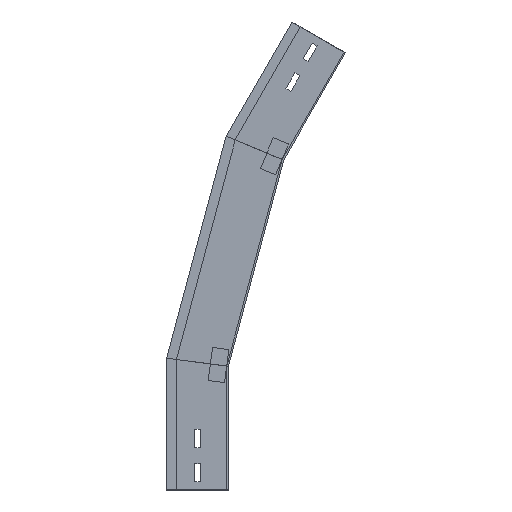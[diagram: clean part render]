
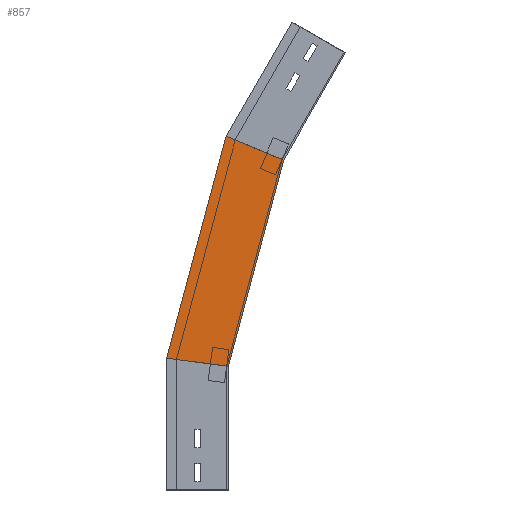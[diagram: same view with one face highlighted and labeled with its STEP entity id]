
A CAD part, left-side view. The second image highlights one B-rep face of the part: STEP entity #857.
In plain terms, the highlighted planar face has unit normal (-1, 0, 0) as drawn and (1, 0, 0) by its records, which use the part's own axes.
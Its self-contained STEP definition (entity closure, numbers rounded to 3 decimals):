
#148 = VERTEX_POINT ( 'NONE', #748 ) ;
#182 = VECTOR ( 'NONE', #763, 1000. ) ;
#237 = CARTESIAN_POINT ( 'NONE',  ( 0., 2.837, 139.412 ) ) ;
#258 = CARTESIAN_POINT ( 'NONE',  ( 0., -19.411, 147.444 ) ) ;
#272 = DIRECTION ( 'NONE',  ( 0., -0.991, -0.131 ) ) ;
#309 = CARTESIAN_POINT ( 'NONE',  ( 0., 75.281, 158.824 ) ) ;
#312 = EDGE_CURVE ( 'NONE', #744, #148, #1322, .T. ) ;
#373 = ORIENTED_EDGE ( 'NONE', *, *, #554, .F. ) ;
#391 = AXIS2_PLACEMENT_3D ( 'NONE', #237, #1129, #923 ) ;
#397 = VERTEX_POINT ( 'NONE', #568 ) ;
#400 = EDGE_CURVE ( 'NONE', #397, #521, #1191, .T. ) ;
#458 = VECTOR ( 'NONE', #1163, 1000. ) ;
#521 = VERTEX_POINT ( 'NONE', #1058 ) ;
#554 = EDGE_CURVE ( 'NONE', #744, #397, #855, .T. ) ;
#568 = CARTESIAN_POINT ( 'NONE',  ( 0., 0., 150. ) ) ;
#581 = LINE ( 'NONE', #1356, #808 ) ;
#674 = FACE_OUTER_BOUND ( 'NONE', #752, .T. ) ;
#698 = DIRECTION ( 'NONE',  ( 0., -0.924, -0.383 ) ) ;
#744 = VERTEX_POINT ( 'NONE', #1333 ) ;
#748 = CARTESIAN_POINT ( 'NONE',  ( 0., 2.855, 429.124 ) ) ;
#752 = EDGE_LOOP ( 'NONE', ( #901, #1355, #1357, #373 ) ) ;
#763 = DIRECTION ( 'NONE',  ( 0., -0.259, 0.966 ) ) ;
#808 = VECTOR ( 'NONE', #698, 1000. ) ;
#855 = LINE ( 'NONE', #258, #913 ) ;
#857 = ADVANCED_FACE ( 'NONE', ( #674 ), #1364, .T. ) ;
#901 = ORIENTED_EDGE ( 'NONE', *, *, #312, .T. ) ;
#913 = VECTOR ( 'NONE', #272, 1000. ) ;
#923 = DIRECTION ( 'NONE',  ( 0., 0., -1. ) ) ;
#1058 = CARTESIAN_POINT ( 'NONE',  ( 0., -67.034, 400.175 ) ) ;
#1129 = DIRECTION ( 'NONE',  ( 1., 0., 0. ) ) ;
#1163 = DIRECTION ( 'NONE',  ( 0., -0.259, 0.966 ) ) ;
#1191 = LINE ( 'NONE', #1263, #458 ) ;
#1216 = EDGE_CURVE ( 'NONE', #148, #521, #581, .T. ) ;
#1263 = CARTESIAN_POINT ( 'NONE',  ( 0., 2.837, 139.412 ) ) ;
#1322 = LINE ( 'NONE', #309, #182 ) ;
#1333 = CARTESIAN_POINT ( 'NONE',  ( 0., 75., 159.874 ) ) ;
#1355 = ORIENTED_EDGE ( 'NONE', *, *, #1216, .T. ) ;
#1356 = CARTESIAN_POINT ( 'NONE',  ( 0., -99.589, 386.69 ) ) ;
#1357 = ORIENTED_EDGE ( 'NONE', *, *, #400, .F. ) ;
#1364 = PLANE ( 'NONE',  #391 ) ;
